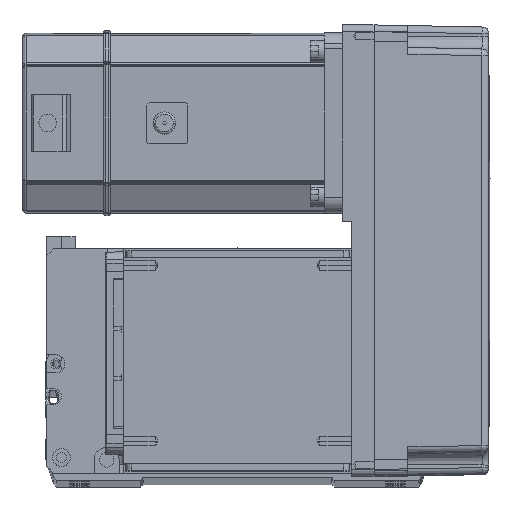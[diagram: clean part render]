
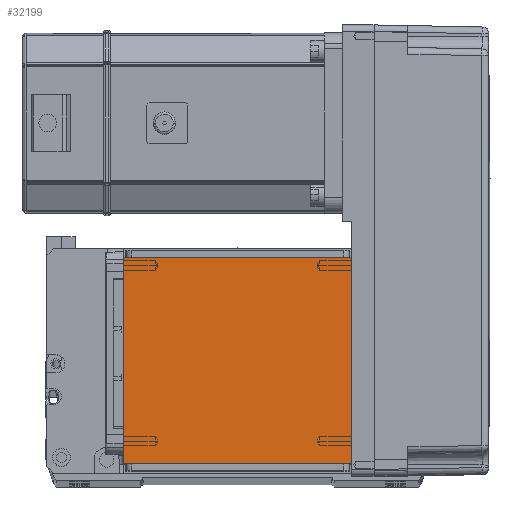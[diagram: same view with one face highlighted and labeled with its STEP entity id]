
A CAD part, top view. The second image highlights one B-rep face of the part: STEP entity #32199.
In plain terms, the highlighted planar face has unit normal (0, 0, 1).
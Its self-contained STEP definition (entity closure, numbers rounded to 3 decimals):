
#630 = CARTESIAN_POINT ( 'NONE',  ( 50.5, 20., 115. ) ) ;
#1542 = LINE ( 'NONE', #21984, #45766 ) ;
#3920 = DIRECTION ( 'NONE',  ( 0., -1., 0. ) ) ;
#6483 = ORIENTED_EDGE ( 'NONE', *, *, #44114, .T. ) ;
#8890 = CARTESIAN_POINT ( 'NONE',  ( -50.5, 122., 115. ) ) ;
#11563 = EDGE_CURVE ( 'NONE', #53820, #23917, #1542, .T. ) ;
#11670 = ORIENTED_EDGE ( 'NONE', *, *, #11563, .F. ) ;
#12859 = ORIENTED_EDGE ( 'NONE', *, *, #60580, .T. ) ;
#12964 = CARTESIAN_POINT ( 'NONE',  ( 0., 0., 115. ) ) ;
#17002 = DIRECTION ( 'NONE',  ( -1., 0., 0. ) ) ;
#17363 = PLANE ( 'NONE',  #32716 ) ;
#17566 = DIRECTION ( 'NONE',  ( 0., 0., 1. ) ) ;
#17653 = FACE_OUTER_BOUND ( 'NONE', #19435, .T. ) ;
#19435 = EDGE_LOOP ( 'NONE', ( #46935, #12859, #11670, #6483 ) ) ;
#19760 = VECTOR ( 'NONE', #28952, 1000. ) ;
#21984 = CARTESIAN_POINT ( 'NONE',  ( -70.004, 20., 115. ) ) ;
#23917 = VERTEX_POINT ( 'NONE', #36998 ) ;
#24023 = CARTESIAN_POINT ( 'NONE',  ( -50.5, 111.5, 115. ) ) ;
#25414 = VECTOR ( 'NONE', #33111, 1000. ) ;
#28952 = DIRECTION ( 'NONE',  ( 1., 0., 0. ) ) ;
#32199 = ADVANCED_FACE ( 'NONE', ( #17653 ), #17363, .T. ) ;
#32716 = AXIS2_PLACEMENT_3D ( 'NONE', #12964, #17566, #50341 ) ;
#33111 = DIRECTION ( 'NONE',  ( 0., 1., 0. ) ) ;
#36841 = CARTESIAN_POINT ( 'NONE',  ( 50.5, 122., 115. ) ) ;
#36998 = CARTESIAN_POINT ( 'NONE',  ( -50.5, 20., 115. ) ) ;
#38802 = LINE ( 'NONE', #8890, #57289 ) ;
#43094 = LINE ( 'NONE', #36841, #25414 ) ;
#44114 = EDGE_CURVE ( 'NONE', #53820, #56266, #43094, .T. ) ;
#45733 = EDGE_CURVE ( 'NONE', #53282, #56266, #49942, .T. ) ;
#45766 = VECTOR ( 'NONE', #17002, 1000. ) ;
#46935 = ORIENTED_EDGE ( 'NONE', *, *, #45733, .F. ) ;
#48511 = CARTESIAN_POINT ( 'NONE',  ( -70.004, 111.5, 115. ) ) ;
#49942 = LINE ( 'NONE', #48511, #19760 ) ;
#50341 = DIRECTION ( 'NONE',  ( 1., 0., 0. ) ) ;
#53282 = VERTEX_POINT ( 'NONE', #24023 ) ;
#53820 = VERTEX_POINT ( 'NONE', #630 ) ;
#56266 = VERTEX_POINT ( 'NONE', #56875 ) ;
#56875 = CARTESIAN_POINT ( 'NONE',  ( 50.5, 111.5, 115. ) ) ;
#57289 = VECTOR ( 'NONE', #3920, 1000. ) ;
#60580 = EDGE_CURVE ( 'NONE', #53282, #23917, #38802, .T. ) ;
